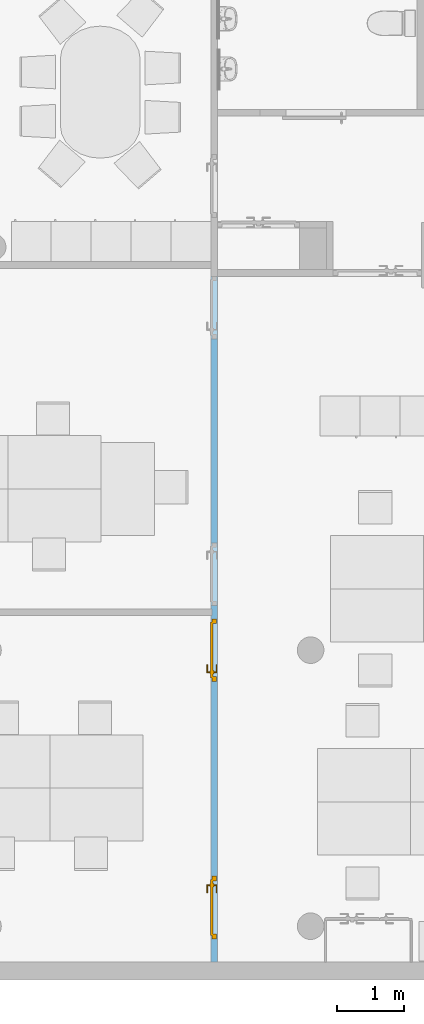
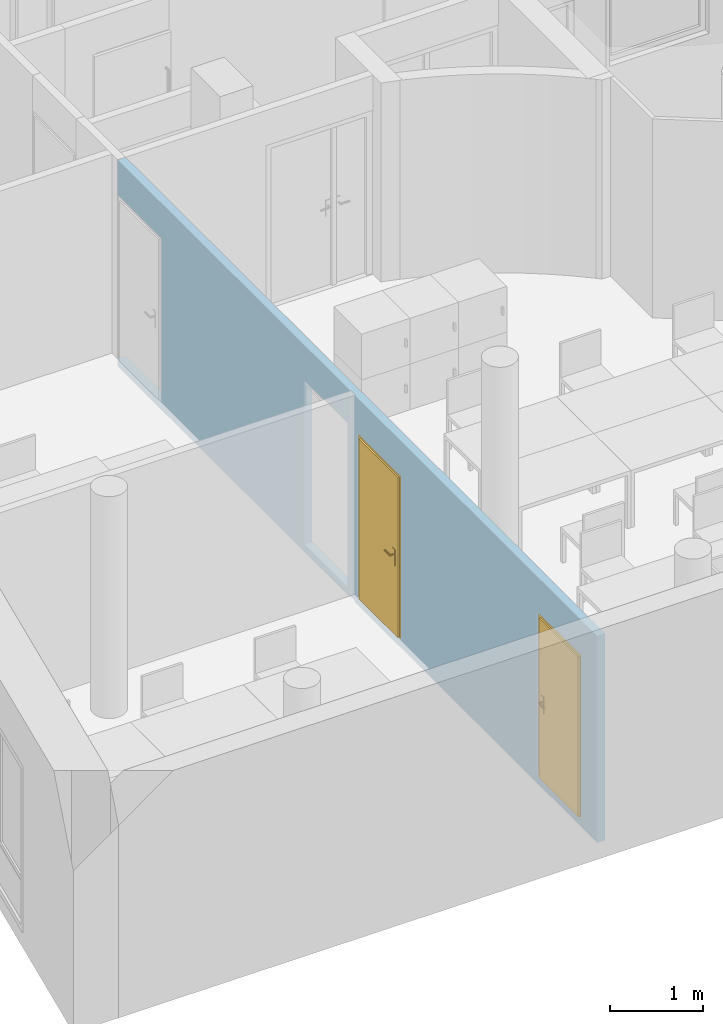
"""IFC4 building model written with IfcOpenShell, lengths in metres."""

from ifc_helpers import new_model, entity, si_unit, converted_unit, derived_unit, frame, origin, origin_with_axes, place, context, subcontext, project, spatial, polyline, outline, extrude, faceted_brep, source, transform, mapped, material, layer, layer_set, layer_usage, element, fill, save


model = new_model("IFC4")

# Units and contexts
model_context = context("Model", 3, precision=1e-05, world=origin())
body_context = subcontext(model_context, "Body", "Model", "MODEL_VIEW")
ifc_project = project(units=[si_unit("LENGTHUNIT", "METRE"), si_unit("AREAUNIT", "SQUARE_METRE"), si_unit("VOLUMEUNIT", "CUBIC_METRE"), si_unit("MASSUNIT", "GRAM", prefix="KILO"), converted_unit("PLANEANGLEUNIT", "DEGREE", entity("IfcPlaneAngleMeasure", 0.0174532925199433), si_unit("PLANEANGLEUNIT", "RADIAN"), dimensions=[0, 0, 0, 0, 0, 0, 0]), derived_unit("THERMALTRANSMITTANCEUNIT", [(si_unit("POWERUNIT", "WATT"), 1), (si_unit("THERMODYNAMICTEMPERATUREUNIT", "KELVIN"), -1), (si_unit("LENGTHUNIT", "METRE"), -2)]), derived_unit("VOLUMETRICFLOWRATEUNIT", [(si_unit("LENGTHUNIT", "METRE"), 3), (converted_unit("TIMEUNIT", "hour", entity("IfcTimeMeasure", 3600.0), si_unit("TIMEUNIT", "SECOND"), dimensions=[0, 0, 1, 0, 0, 0, 0]), -1), (si_unit("LENGTHUNIT", "METRE"), -1)])], contexts=[model_context])

# Building, storeys
building_placement = place(None, origin())
building = spatial("IfcBuilding", under=ifc_project, at=building_placement, Name="HABITATGE PLURIFAMILIAR", CompositionType="ELEMENT")
storey_1_placement = place(building_placement, frame((0.0, 0.0, 18.29)))
storey_1 = spatial("IfcBuildingStorey", under=building, at=storey_1_placement, Name="PLANTA CINQUENA", CompositionType="ELEMENT", Elevation=18.29)
storey_2_placement = place(storey_1_placement, frame((0.0, 0.0, 15.28)))
storey_2 = spatial("IfcBuildingStorey", under=storey_1, at=storey_2_placement, Name="NOU", CompositionType="PARTIAL")

# Wall, openings, doors
ifc_material = material()
ifc_layer = layer(ifc_material, 0.1)
ifc_layer_set = layer_set([ifc_layer])
ifc_layer_usage = layer_usage(ifc_layer_set, "AXIS2", "POSITIVE", 0.0)
wall_placement = place(storey_2_placement, frame((404.436984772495, 13.1106121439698, -15.38), z_axis=(0.0, 0.0, 1.0), x_axis=(0.0, 1.0, 0.0)))
wall = element("IfcWall", 1, at=wall_placement, inside=storey_2, material=ifc_layer_usage, Name="Mampara P5", context=body_context, shape_type="SweptSolid", body=[
    extrude(outline(polyline([(0.0, -0.1), (10.3088477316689, -0.1), (10.3088477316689, 0.0), (5.31089460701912, 0.0), (5.31089460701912, -0.0155478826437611), (5.21089460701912, -0.0155478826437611), (5.21089460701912, 0.0), (0.0, 0.0), (0.0, -0.1)])), frame((0.0, 0.1, 0.0), z_axis=(0.0, 0.0, 1.0), x_axis=(1.0, 0.0, 0.0)), (0.0, 0.0, 1.0), 2.71),
])
opening_1_placement = place(wall_placement, frame((9.36884773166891, 0.0, 0.1), z_axis=(0.0, 1.0, 0.0), x_axis=(0.0, 0.0, 1.0)))
element("IfcOpeningElement", 2, at=opening_1_placement, cuts=wall, Name="Vano porta P5", ObjectType="Opening", context=body_context, shape_type="SweptSolid", body=[
    extrude(outline(polyline([(2.15, 0.940000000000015), (2.15, 0.0), (0.0, 0.0), (0.0, 0.940000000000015), (2.15, 0.940000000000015)])), origin_with_axes(), (0.0, 0.0, 1.0), 0.1),
])
opening_2_placement = place(wall_placement, frame((5.36089460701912, 0.0, 0.1), z_axis=(0.0, 1.0, 0.0), x_axis=(0.0, 0.0, 1.0)))
element("IfcOpeningElement", 3, at=opening_2_placement, cuts=wall, Name="Vano porta P5", ObjectType="Opening", context=body_context, shape_type="SweptSolid", body=[
    extrude(outline(polyline([(2.15, 0.94), (2.15, 0.0), (0.0, 0.0), (0.0, 0.94), (2.15, 0.94)])), origin_with_axes(), (0.0, 0.0, 1.0), 0.1),
])
opening_3_placement = place(wall_placement, frame((4.22089460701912, 0.0, 0.1), z_axis=(0.0, 1.0, 0.0), x_axis=(0.0, 0.0, 1.0)))
opening_3 = element("IfcOpeningElement", 4, at=opening_3_placement, cuts=wall, Name="Vano porta P5", ObjectType="Opening", context=body_context, shape_type="SweptSolid", body=[
    extrude(outline(polyline([(2.15, 0.94), (2.15, 0.0), (0.0, 0.0), (0.0, 0.94), (2.15, 0.94)])), origin_with_axes(), (0.0, 0.0, 1.0), 0.1),
])
opening_4_placement = place(wall_placement, frame((0.35, 0.0, 0.1), z_axis=(0.0, 1.0, 0.0), x_axis=(0.0, 0.0, 1.0)))
opening_4 = element("IfcOpeningElement", 5, at=opening_4_placement, cuts=wall, Name="Vano porta P5", ObjectType="Opening", context=body_context, shape_type="SweptSolid", body=[
    extrude(outline(polyline([(2.15, 0.94), (2.15, 0.0), (0.0, 0.0), (0.0, 0.94), (2.15, 0.94)])), origin_with_axes(), (0.0, 0.0, 1.0), 0.1),
])
shared_shape_1 = source(origin_with_axes(), body_context, "Body", "Brep", [
    faceted_brep([(0.0, 0.0700000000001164, 2.15), (0.0, 0.0700000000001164, 0.0), (0.0699999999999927, 0.0700000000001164, 0.0), (0.0699999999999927, 0.0700000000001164, 2.15), (0.0, 0.0, 0.0), (0.0, 0.0, 2.15), (0.0699999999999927, 0.0, 2.15), (0.0699999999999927, 0.0, 0.0)], [[[0, 1, 2, 3]], [[4, 5, 6, 7]], [[1, 0, 5, 4]], [[2, 1, 4, 7]], [[3, 2, 7, 6]], [[0, 3, 6, 5]]], orient=[[False], [False], [False], [False], [False], [False]]),
    faceted_brep([(0.869999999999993, 0.0700000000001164, 2.15), (0.869999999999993, 0.0700000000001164, 0.0), (0.939999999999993, 0.0700000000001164, 0.0), (0.939999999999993, 0.0700000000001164, 2.15), (0.869999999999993, 0.0, 0.0), (0.869999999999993, 0.0, 2.15), (0.939999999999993, 0.0, 2.15), (0.939999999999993, 0.0, 0.0)], [[[0, 1, 2, 3]], [[4, 5, 6, 7]], [[1, 0, 5, 4]], [[2, 1, 4, 7]], [[3, 2, 7, 6]], [[0, 3, 6, 5]]], orient=[[False], [False], [False], [False], [False], [False]]),
    faceted_brep([(0.0699999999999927, 0.0700000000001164, 2.15), (0.0699999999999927, 0.0700000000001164, 2.08), (0.869999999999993, 0.0700000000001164, 2.08), (0.869999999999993, 0.0700000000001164, 2.15), (0.0699999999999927, 0.0, 2.08), (0.0699999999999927, 0.0, 2.15), (0.869999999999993, 0.0, 2.15), (0.869999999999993, 0.0, 2.08)], [[[0, 1, 2, 3]], [[4, 5, 6, 7]], [[1, 0, 5, 4]], [[2, 1, 4, 7]], [[3, 2, 7, 6]], [[0, 3, 6, 5]]], orient=[[False], [False], [False], [False], [False], [False]]),
    faceted_brep([(0.0499999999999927, 0.0900000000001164, 2.1), (0.0499999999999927, 0.0900000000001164, 0.0), (0.889999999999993, 0.0900000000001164, 0.0), (0.889999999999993, 0.0900000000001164, 2.1), (0.0499999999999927, 0.0500000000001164, 0.0), (0.0499999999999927, 0.0500000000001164, 2.1), (0.889999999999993, 0.0500000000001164, 2.1), (0.889999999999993, 0.0500000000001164, 0.0)], [[[0, 1, 2, 3]], [[4, 5, 6, 7]], [[1, 0, 5, 4]], [[2, 1, 4, 7]], [[3, 2, 7, 6]], [[0, 3, 6, 5]]], orient=[[False], [False], [False], [False], [False], [False]]),
    faceted_brep([(0.109999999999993, 0.0500000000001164, 1.125), (0.109999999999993, 0.0500000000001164, 0.91), (0.159999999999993, 0.0500000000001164, 0.91), (0.159999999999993, 0.0500000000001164, 1.125), (0.109999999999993, 0.0400000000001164, 0.91), (0.109999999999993, 0.0400000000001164, 1.125), (0.159999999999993, 0.0400000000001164, 1.125), (0.159999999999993, 0.0400000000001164, 0.91)], [[[0, 1, 2, 3]], [[4, 5, 6, 7]], [[1, 0, 5, 4]], [[2, 1, 4, 7]], [[3, 2, 7, 6]], [[0, 3, 6, 5]]], orient=[[False], [False], [False], [False], [False], [False]]),
    faceted_brep([(0.134999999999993, 0.0400000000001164, 1.06), (0.129999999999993, 0.0400000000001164, 1.05866025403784), (0.126339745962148, 0.0400000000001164, 1.055), (0.124999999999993, 0.0400000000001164, 1.05), (0.126339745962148, 0.0400000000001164, 1.045), (0.129999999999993, 0.0400000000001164, 1.04133974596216), (0.134999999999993, 0.0400000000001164, 1.04), (0.139999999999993, 0.0400000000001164, 1.04133974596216), (0.143660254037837, 0.0400000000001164, 1.045), (0.144999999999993, 0.0400000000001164, 1.05), (0.143660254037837, 0.0400000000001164, 1.055), (0.139999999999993, 0.0400000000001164, 1.05866025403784), (0.134999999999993, 0.0, 1.06), (0.129999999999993, -0.00499999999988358, 1.05866025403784), (0.126339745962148, -0.00866025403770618, 1.055), (0.124999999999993, -0.00999999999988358, 1.05), (0.126339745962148, -0.00866025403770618, 1.045), (0.129999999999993, -0.00499999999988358, 1.04133974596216), (0.134999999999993, 0.0, 1.04), (0.139999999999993, 0.00500000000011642, 1.04133974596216), (0.143660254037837, 0.00866025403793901, 1.045), (0.144999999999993, 0.0100000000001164, 1.05), (0.143660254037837, 0.00866025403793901, 1.055), (0.139999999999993, 0.00500000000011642, 1.05866025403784), (0.249999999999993, 0.0, 1.06), (0.249999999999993, 0.00500000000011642, 1.05866025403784), (0.249999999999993, 0.00866025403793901, 1.055), (0.249999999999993, 0.0100000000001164, 1.05), (0.249999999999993, 0.00866025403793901, 1.045), (0.249999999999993, 0.00500000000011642, 1.04133974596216), (0.249999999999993, 0.0, 1.04), (0.249999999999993, -0.00499999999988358, 1.04133974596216), (0.249999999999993, -0.00866025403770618, 1.045), (0.249999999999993, -0.00999999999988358, 1.05), (0.249999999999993, -0.00866025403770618, 1.055), (0.249999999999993, -0.00499999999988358, 1.05866025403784)], [[[0, 1, 2, 3, 4, 5, 6, 7, 8, 9, 10, 11]], [[0, 12, 13, 1]], [[1, 13, 14, 2]], [[2, 14, 15, 3]], [[3, 15, 16, 4]], [[4, 16, 17, 5]], [[5, 17, 18, 6]], [[6, 18, 19, 7]], [[7, 19, 20, 8]], [[8, 20, 21, 9]], [[9, 21, 22, 10]], [[10, 22, 23, 11]], [[11, 23, 12, 0]], [[24, 25, 26, 27, 28, 29, 30, 31, 32, 33, 34, 35]], [[12, 24, 35, 13]], [[13, 35, 34, 14]], [[14, 34, 33, 15]], [[15, 33, 32, 16]], [[16, 32, 31, 17]], [[17, 31, 30, 18]], [[18, 30, 29, 19]], [[19, 29, 28, 20]], [[20, 28, 27, 21]], [[21, 27, 26, 22]], [[22, 26, 25, 23]], [[23, 25, 24, 12]]], orient=[[False], [False], [False], [False], [False], [False], [False], [False], [False], [False], [False], [False], [False], [False], [False], [False], [False], [False], [False], [False], [False], [False], [False], [False], [False], [False]]),
    faceted_brep([(0.109999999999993, 0.0900000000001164, 1.125), (0.159999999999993, 0.0900000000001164, 1.125), (0.159999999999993, 0.0900000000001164, 0.91), (0.109999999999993, 0.0900000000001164, 0.91), (0.109999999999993, 0.100000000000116, 0.91), (0.159999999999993, 0.100000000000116, 0.91), (0.159999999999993, 0.100000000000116, 1.125), (0.109999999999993, 0.100000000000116, 1.125)], [[[0, 1, 2, 3]], [[4, 5, 6, 7]], [[3, 4, 7, 0]], [[2, 5, 4, 3]], [[1, 6, 5, 2]], [[0, 7, 6, 1]]], orient=[[False], [False], [False], [False], [False], [False]]),
    faceted_brep([(0.134999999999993, 0.100000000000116, 1.06), (0.139999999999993, 0.100000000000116, 1.05866025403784), (0.143660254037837, 0.100000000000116, 1.055), (0.144999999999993, 0.100000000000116, 1.05), (0.143660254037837, 0.100000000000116, 1.045), (0.139999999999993, 0.100000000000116, 1.04133974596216), (0.134999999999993, 0.100000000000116, 1.04), (0.129999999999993, 0.100000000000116, 1.04133974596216), (0.126339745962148, 0.100000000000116, 1.045), (0.124999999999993, 0.100000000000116, 1.05), (0.126339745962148, 0.100000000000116, 1.055), (0.129999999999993, 0.100000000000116, 1.05866025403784), (0.129999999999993, 0.145000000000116, 1.05866025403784), (0.134999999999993, 0.140000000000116, 1.06), (0.126339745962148, 0.148660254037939, 1.055), (0.124999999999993, 0.150000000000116, 1.05), (0.126339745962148, 0.148660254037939, 1.045), (0.129999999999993, 0.145000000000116, 1.04133974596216), (0.134999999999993, 0.140000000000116, 1.04), (0.139999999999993, 0.135000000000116, 1.04133974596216), (0.143660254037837, 0.131339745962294, 1.045), (0.144999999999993, 0.130000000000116, 1.05), (0.143660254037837, 0.131339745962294, 1.055), (0.139999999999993, 0.135000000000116, 1.05866025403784), (0.249999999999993, 0.140000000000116, 1.06), (0.249999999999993, 0.145000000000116, 1.05866025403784), (0.249999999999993, 0.148660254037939, 1.055), (0.249999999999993, 0.150000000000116, 1.05), (0.249999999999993, 0.148660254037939, 1.045), (0.249999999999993, 0.145000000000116, 1.04133974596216), (0.249999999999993, 0.140000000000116, 1.04), (0.249999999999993, 0.135000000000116, 1.04133974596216), (0.249999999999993, 0.131339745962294, 1.045), (0.249999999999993, 0.130000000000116, 1.05), (0.249999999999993, 0.131339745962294, 1.055), (0.249999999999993, 0.135000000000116, 1.05866025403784)], [[[0, 1, 2, 3, 4, 5, 6, 7, 8, 9, 10, 11]], [[0, 11, 12, 13]], [[11, 10, 14, 12]], [[10, 9, 15, 14]], [[9, 8, 16, 15]], [[8, 7, 17, 16]], [[7, 6, 18, 17]], [[6, 5, 19, 18]], [[5, 4, 20, 19]], [[4, 3, 21, 20]], [[3, 2, 22, 21]], [[2, 1, 23, 22]], [[1, 0, 13, 23]], [[24, 25, 26, 27, 28, 29, 30, 31, 32, 33, 34, 35]], [[13, 12, 25, 24]], [[12, 14, 26, 25]], [[14, 15, 27, 26]], [[15, 16, 28, 27]], [[16, 17, 29, 28]], [[17, 18, 30, 29]], [[18, 19, 31, 30]], [[19, 20, 32, 31]], [[20, 21, 33, 32]], [[21, 22, 34, 33]], [[22, 23, 35, 34]], [[23, 13, 24, 35]]], orient=[[False], [False], [False], [False], [False], [False], [False], [False], [False], [False], [False], [False], [False], [False], [False], [False], [False], [False], [False], [False], [False], [False], [False], [False], [False], [False]]),
])
door_1_placement = place(opening_3_placement, frame((0.0, 0.0, 0.015), z_axis=(1.0, 0.0, 0.0), x_axis=(0.0, 1.0, 0.0)))
door_1 = element("IfcDoor", 6, at=door_1_placement, inside=storey_2, Name="Porta P5", OperationType="USERDEFINED", OverallHeight=2.15, OverallWidth=0.94, PredefinedType="DOOR", context=body_context, shape_type="MappedRepresentation", body=[
    mapped(shared_shape_1, transform((0.0, 0.0, 0.0), x_axis=(1.0, 0.0, 0.0), y_axis=(0.0, 1.0, 0.0), z_axis=(0.0, 0.0, 1.0), scale=1.0)),
])
fill(opening_3, door_1)
shared_shape_2 = source(origin_with_axes(), body_context, "Body", "Brep", [
    faceted_brep([(0.939999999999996, 0.0700000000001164, 2.15), (0.869999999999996, 0.0700000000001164, 2.15), (0.869999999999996, 0.0700000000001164, 0.0), (0.939999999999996, 0.0700000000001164, 0.0), (0.939999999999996, 0.0, 0.0), (0.869999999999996, 0.0, 0.0), (0.869999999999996, 0.0, 2.15), (0.939999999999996, 0.0, 2.15)], [[[0, 1, 2, 3]], [[4, 5, 6, 7]], [[3, 4, 7, 0]], [[2, 5, 4, 3]], [[1, 6, 5, 2]], [[0, 7, 6, 1]]], orient=[[False], [False], [False], [False], [False], [False]]),
    faceted_brep([(0.0699999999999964, 0.0700000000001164, 2.15), (0.0, 0.0700000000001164, 2.15), (0.0, 0.0700000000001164, 0.0), (0.0699999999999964, 0.0700000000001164, 0.0), (0.0699999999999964, 0.0, 0.0), (0.0, 0.0, 0.0), (0.0, 0.0, 2.15), (0.0699999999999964, 0.0, 2.15)], [[[0, 1, 2, 3]], [[4, 5, 6, 7]], [[3, 4, 7, 0]], [[2, 5, 4, 3]], [[1, 6, 5, 2]], [[0, 7, 6, 1]]], orient=[[False], [False], [False], [False], [False], [False]]),
    faceted_brep([(0.869999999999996, 0.0700000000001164, 2.15), (0.0699999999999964, 0.0700000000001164, 2.15), (0.0699999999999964, 0.0700000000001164, 2.08), (0.869999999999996, 0.0700000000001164, 2.08), (0.869999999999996, 0.0, 2.08), (0.0699999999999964, 0.0, 2.08), (0.0699999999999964, 0.0, 2.15), (0.869999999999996, 0.0, 2.15)], [[[0, 1, 2, 3]], [[4, 5, 6, 7]], [[3, 4, 7, 0]], [[2, 5, 4, 3]], [[1, 6, 5, 2]], [[0, 7, 6, 1]]], orient=[[False], [False], [False], [False], [False], [False]]),
    faceted_brep([(0.889999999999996, 0.0900000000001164, 2.1), (0.0499999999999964, 0.0900000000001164, 2.1), (0.0499999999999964, 0.0900000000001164, 0.0), (0.889999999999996, 0.0900000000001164, 0.0), (0.889999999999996, 0.0500000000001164, 0.0), (0.0499999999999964, 0.0500000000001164, 0.0), (0.0499999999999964, 0.0500000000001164, 2.1), (0.889999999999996, 0.0500000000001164, 2.1)], [[[0, 1, 2, 3]], [[4, 5, 6, 7]], [[3, 4, 7, 0]], [[2, 5, 4, 3]], [[1, 6, 5, 2]], [[0, 7, 6, 1]]], orient=[[False], [False], [False], [False], [False], [False]]),
    faceted_brep([(0.829999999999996, 0.0500000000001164, 1.125), (0.779999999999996, 0.0500000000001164, 1.125), (0.779999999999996, 0.0500000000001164, 0.91), (0.829999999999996, 0.0500000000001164, 0.91), (0.829999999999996, 0.0400000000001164, 0.91), (0.779999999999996, 0.0400000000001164, 0.91), (0.779999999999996, 0.0400000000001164, 1.125), (0.829999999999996, 0.0400000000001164, 1.125)], [[[0, 1, 2, 3]], [[4, 5, 6, 7]], [[3, 4, 7, 0]], [[2, 5, 4, 3]], [[1, 6, 5, 2]], [[0, 7, 6, 1]]], orient=[[False], [False], [False], [False], [False], [False]]),
    faceted_brep([(0.804999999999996, 0.0400000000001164, 1.06), (0.799999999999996, 0.0400000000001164, 1.05866025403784), (0.796339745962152, 0.0400000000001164, 1.055), (0.794999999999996, 0.0400000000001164, 1.05), (0.796339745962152, 0.0400000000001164, 1.045), (0.799999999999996, 0.0400000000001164, 1.04133974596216), (0.804999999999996, 0.0400000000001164, 1.04), (0.809999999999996, 0.0400000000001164, 1.04133974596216), (0.813660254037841, 0.0400000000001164, 1.045), (0.814999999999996, 0.0400000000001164, 1.05), (0.813660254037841, 0.0400000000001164, 1.055), (0.809999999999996, 0.0400000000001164, 1.05866025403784), (0.809999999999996, -0.00499999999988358, 1.05866025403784), (0.804999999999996, 0.0, 1.06), (0.813660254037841, -0.00866025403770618, 1.055), (0.814999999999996, -0.00999999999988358, 1.05), (0.813660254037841, -0.00866025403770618, 1.045), (0.809999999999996, -0.00499999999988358, 1.04133974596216), (0.804999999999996, 0.0, 1.04), (0.799999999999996, 0.00500000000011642, 1.04133974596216), (0.796339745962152, 0.00866025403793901, 1.045), (0.794999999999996, 0.0100000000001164, 1.05), (0.796339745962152, 0.00866025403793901, 1.055), (0.799999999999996, 0.00500000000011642, 1.05866025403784), (0.689999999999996, 0.0, 1.06), (0.689999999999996, -0.00499999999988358, 1.05866025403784), (0.689999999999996, -0.00866025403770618, 1.055), (0.689999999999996, -0.00999999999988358, 1.05), (0.689999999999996, -0.00866025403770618, 1.045), (0.689999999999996, -0.00499999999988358, 1.04133974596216), (0.689999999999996, 0.0, 1.04), (0.689999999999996, 0.00500000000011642, 1.04133974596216), (0.689999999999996, 0.00866025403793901, 1.045), (0.689999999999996, 0.0100000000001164, 1.05), (0.689999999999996, 0.00866025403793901, 1.055), (0.689999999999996, 0.00500000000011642, 1.05866025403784)], [[[0, 1, 2, 3, 4, 5, 6, 7, 8, 9, 10, 11]], [[0, 11, 12, 13]], [[11, 10, 14, 12]], [[10, 9, 15, 14]], [[9, 8, 16, 15]], [[8, 7, 17, 16]], [[7, 6, 18, 17]], [[6, 5, 19, 18]], [[5, 4, 20, 19]], [[4, 3, 21, 20]], [[3, 2, 22, 21]], [[2, 1, 23, 22]], [[1, 0, 13, 23]], [[24, 25, 26, 27, 28, 29, 30, 31, 32, 33, 34, 35]], [[13, 12, 25, 24]], [[12, 14, 26, 25]], [[14, 15, 27, 26]], [[15, 16, 28, 27]], [[16, 17, 29, 28]], [[17, 18, 30, 29]], [[18, 19, 31, 30]], [[19, 20, 32, 31]], [[20, 21, 33, 32]], [[21, 22, 34, 33]], [[22, 23, 35, 34]], [[23, 13, 24, 35]]], orient=[[False], [False], [False], [False], [False], [False], [False], [False], [False], [False], [False], [False], [False], [False], [False], [False], [False], [False], [False], [False], [False], [False], [False], [False], [False], [False]]),
    faceted_brep([(0.829999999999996, 0.0900000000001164, 1.125), (0.829999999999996, 0.0900000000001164, 0.91), (0.779999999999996, 0.0900000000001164, 0.91), (0.779999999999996, 0.0900000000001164, 1.125), (0.829999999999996, 0.100000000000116, 0.91), (0.829999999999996, 0.100000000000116, 1.125), (0.779999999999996, 0.100000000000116, 1.125), (0.779999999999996, 0.100000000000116, 0.91)], [[[0, 1, 2, 3]], [[4, 5, 6, 7]], [[1, 0, 5, 4]], [[2, 1, 4, 7]], [[3, 2, 7, 6]], [[0, 3, 6, 5]]], orient=[[False], [False], [False], [False], [False], [False]]),
    faceted_brep([(0.804999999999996, 0.100000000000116, 1.06), (0.809999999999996, 0.100000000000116, 1.05866025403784), (0.813660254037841, 0.100000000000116, 1.055), (0.814999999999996, 0.100000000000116, 1.05), (0.813660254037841, 0.100000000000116, 1.045), (0.809999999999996, 0.100000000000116, 1.04133974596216), (0.804999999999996, 0.100000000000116, 1.04), (0.799999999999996, 0.100000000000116, 1.04133974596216), (0.796339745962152, 0.100000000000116, 1.045), (0.794999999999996, 0.100000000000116, 1.05), (0.796339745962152, 0.100000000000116, 1.055), (0.799999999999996, 0.100000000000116, 1.05866025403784), (0.804999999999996, 0.140000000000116, 1.06), (0.809999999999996, 0.145000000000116, 1.05866025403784), (0.813660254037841, 0.148660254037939, 1.055), (0.814999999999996, 0.150000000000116, 1.05), (0.813660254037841, 0.148660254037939, 1.045), (0.809999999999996, 0.145000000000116, 1.04133974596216), (0.804999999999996, 0.140000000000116, 1.04), (0.799999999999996, 0.135000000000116, 1.04133974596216), (0.796339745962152, 0.131339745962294, 1.045), (0.794999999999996, 0.130000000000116, 1.05), (0.796339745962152, 0.131339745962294, 1.055), (0.799999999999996, 0.135000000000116, 1.05866025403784), (0.689999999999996, 0.140000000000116, 1.06), (0.689999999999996, 0.135000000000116, 1.05866025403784), (0.689999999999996, 0.131339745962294, 1.055), (0.689999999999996, 0.130000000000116, 1.05), (0.689999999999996, 0.131339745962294, 1.045), (0.689999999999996, 0.135000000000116, 1.04133974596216), (0.689999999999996, 0.140000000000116, 1.04), (0.689999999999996, 0.145000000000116, 1.04133974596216), (0.689999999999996, 0.148660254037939, 1.045), (0.689999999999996, 0.150000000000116, 1.05), (0.689999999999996, 0.148660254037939, 1.055), (0.689999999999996, 0.145000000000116, 1.05866025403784)], [[[0, 1, 2, 3, 4, 5, 6, 7, 8, 9, 10, 11]], [[0, 12, 13, 1]], [[1, 13, 14, 2]], [[2, 14, 15, 3]], [[3, 15, 16, 4]], [[4, 16, 17, 5]], [[5, 17, 18, 6]], [[6, 18, 19, 7]], [[7, 19, 20, 8]], [[8, 20, 21, 9]], [[9, 21, 22, 10]], [[10, 22, 23, 11]], [[11, 23, 12, 0]], [[24, 25, 26, 27, 28, 29, 30, 31, 32, 33, 34, 35]], [[12, 24, 35, 13]], [[13, 35, 34, 14]], [[14, 34, 33, 15]], [[15, 33, 32, 16]], [[16, 32, 31, 17]], [[17, 31, 30, 18]], [[18, 30, 29, 19]], [[19, 29, 28, 20]], [[20, 28, 27, 21]], [[21, 27, 26, 22]], [[22, 26, 25, 23]], [[23, 25, 24, 12]]], orient=[[False], [False], [False], [False], [False], [False], [False], [False], [False], [False], [False], [False], [False], [False], [False], [False], [False], [False], [False], [False], [False], [False], [False], [False], [False], [False]]),
])
door_2_placement = place(opening_4_placement, frame((0.0, 0.0, 0.015), z_axis=(1.0, 0.0, 0.0), x_axis=(0.0, 1.0, 0.0)))
door_2 = element("IfcDoor", 7, at=door_2_placement, inside=storey_2, Name="Porta P5", OperationType="USERDEFINED", OverallHeight=2.15, OverallWidth=0.94, PredefinedType="DOOR", context=body_context, shape_type="MappedRepresentation", body=[
    mapped(shared_shape_2, transform((0.0, 0.0, 0.0), x_axis=(1.0, 0.0, 0.0), y_axis=(0.0, 1.0, 0.0), z_axis=(0.0, 0.0, 1.0), scale=1.0)),
])
fill(opening_4, door_2)

save(model, "model.ifc")
